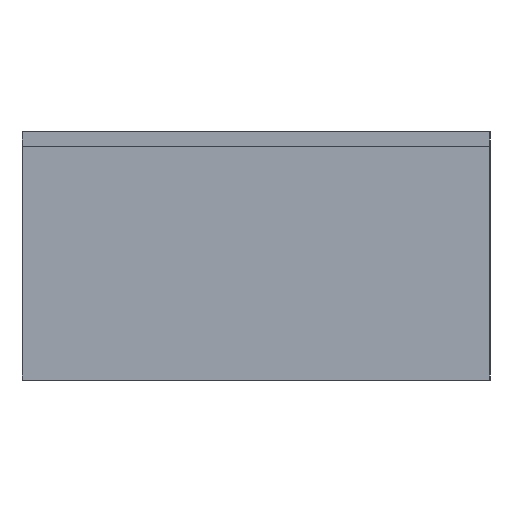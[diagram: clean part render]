
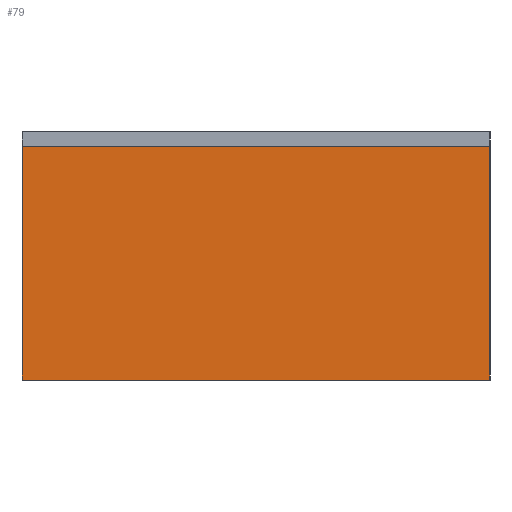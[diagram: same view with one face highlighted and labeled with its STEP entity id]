
A CAD part, left-side view. The second image highlights one B-rep face of the part: STEP entity #79.
In plain terms, the highlighted planar face has unit normal (-1, 0, 0).
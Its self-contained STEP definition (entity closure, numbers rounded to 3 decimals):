
#79 = ADVANCED_FACE('',(#80),#94,.F.);
#80 = FACE_BOUND('',#81,.F.);
#81 = EDGE_LOOP('',(#82,#117,#145,#173));
#82 = ORIENTED_EDGE('',*,*,#83,.F.);
#83 = EDGE_CURVE('',#84,#86,#88,.T.);
#84 = VERTEX_POINT('',#85);
#85 = CARTESIAN_POINT('',(0.,0.,0.));
#86 = VERTEX_POINT('',#87);
#87 = CARTESIAN_POINT('',(0.,0.,50.));
#88 = SURFACE_CURVE('',#89,(#93,#105),.PCURVE_S1.);
#89 = LINE('',#90,#91);
#90 = CARTESIAN_POINT('',(0.,0.,0.));
#91 = VECTOR('',#92,1.);
#92 = DIRECTION('',(0.,0.,1.));
#93 = PCURVE('',#94,#99);
#94 = PLANE('',#95);
#95 = AXIS2_PLACEMENT_3D('',#96,#97,#98);
#96 = CARTESIAN_POINT('',(0.,0.,0.));
#97 = DIRECTION('',(1.,0.,0.));
#98 = DIRECTION('',(0.,0.,1.));
#99 = DEFINITIONAL_REPRESENTATION('',(#100),#104);
#100 = LINE('',#101,#102);
#101 = CARTESIAN_POINT('',(0.,0.));
#102 = VECTOR('',#103,1.);
#103 = DIRECTION('',(1.,0.));
#104 = ( GEOMETRIC_REPRESENTATION_CONTEXT(2) 
PARAMETRIC_REPRESENTATION_CONTEXT() REPRESENTATION_CONTEXT('2D SPACE',''
  ) );
#105 = PCURVE('',#106,#111);
#106 = PLANE('',#107);
#107 = AXIS2_PLACEMENT_3D('',#108,#109,#110);
#108 = CARTESIAN_POINT('',(0.,0.,0.));
#109 = DIRECTION('',(0.,1.,0.));
#110 = DIRECTION('',(0.,0.,1.));
#111 = DEFINITIONAL_REPRESENTATION('',(#112),#116);
#112 = LINE('',#113,#114);
#113 = CARTESIAN_POINT('',(0.,0.));
#114 = VECTOR('',#115,1.);
#115 = DIRECTION('',(1.,0.));
#116 = ( GEOMETRIC_REPRESENTATION_CONTEXT(2) 
PARAMETRIC_REPRESENTATION_CONTEXT() REPRESENTATION_CONTEXT('2D SPACE',''
  ) );
#117 = ORIENTED_EDGE('',*,*,#118,.T.);
#118 = EDGE_CURVE('',#84,#119,#121,.T.);
#119 = VERTEX_POINT('',#120);
#120 = CARTESIAN_POINT('',(0.,100.,0.));
#121 = SURFACE_CURVE('',#122,(#126,#133),.PCURVE_S1.);
#122 = LINE('',#123,#124);
#123 = CARTESIAN_POINT('',(0.,0.,0.));
#124 = VECTOR('',#125,1.);
#125 = DIRECTION('',(0.,1.,0.));
#126 = PCURVE('',#94,#127);
#127 = DEFINITIONAL_REPRESENTATION('',(#128),#132);
#128 = LINE('',#129,#130);
#129 = CARTESIAN_POINT('',(0.,0.));
#130 = VECTOR('',#131,1.);
#131 = DIRECTION('',(0.,-1.));
#132 = ( GEOMETRIC_REPRESENTATION_CONTEXT(2) 
PARAMETRIC_REPRESENTATION_CONTEXT() REPRESENTATION_CONTEXT('2D SPACE',''
  ) );
#133 = PCURVE('',#134,#139);
#134 = PLANE('',#135);
#135 = AXIS2_PLACEMENT_3D('',#136,#137,#138);
#136 = CARTESIAN_POINT('',(0.,0.,0.));
#137 = DIRECTION('',(0.,0.,1.));
#138 = DIRECTION('',(1.,0.,0.));
#139 = DEFINITIONAL_REPRESENTATION('',(#140),#144);
#140 = LINE('',#141,#142);
#141 = CARTESIAN_POINT('',(0.,0.));
#142 = VECTOR('',#143,1.);
#143 = DIRECTION('',(0.,1.));
#144 = ( GEOMETRIC_REPRESENTATION_CONTEXT(2) 
PARAMETRIC_REPRESENTATION_CONTEXT() REPRESENTATION_CONTEXT('2D SPACE',''
  ) );
#145 = ORIENTED_EDGE('',*,*,#146,.T.);
#146 = EDGE_CURVE('',#119,#147,#149,.T.);
#147 = VERTEX_POINT('',#148);
#148 = CARTESIAN_POINT('',(0.,100.,50.));
#149 = SURFACE_CURVE('',#150,(#154,#161),.PCURVE_S1.);
#150 = LINE('',#151,#152);
#151 = CARTESIAN_POINT('',(0.,100.,0.));
#152 = VECTOR('',#153,1.);
#153 = DIRECTION('',(0.,0.,1.));
#154 = PCURVE('',#94,#155);
#155 = DEFINITIONAL_REPRESENTATION('',(#156),#160);
#156 = LINE('',#157,#158);
#157 = CARTESIAN_POINT('',(0.,-100.));
#158 = VECTOR('',#159,1.);
#159 = DIRECTION('',(1.,0.));
#160 = ( GEOMETRIC_REPRESENTATION_CONTEXT(2) 
PARAMETRIC_REPRESENTATION_CONTEXT() REPRESENTATION_CONTEXT('2D SPACE',''
  ) );
#161 = PCURVE('',#162,#167);
#162 = PLANE('',#163);
#163 = AXIS2_PLACEMENT_3D('',#164,#165,#166);
#164 = CARTESIAN_POINT('',(0.,100.,0.));
#165 = DIRECTION('',(0.,1.,0.));
#166 = DIRECTION('',(0.,0.,1.));
#167 = DEFINITIONAL_REPRESENTATION('',(#168),#172);
#168 = LINE('',#169,#170);
#169 = CARTESIAN_POINT('',(0.,0.));
#170 = VECTOR('',#171,1.);
#171 = DIRECTION('',(1.,0.));
#172 = ( GEOMETRIC_REPRESENTATION_CONTEXT(2) 
PARAMETRIC_REPRESENTATION_CONTEXT() REPRESENTATION_CONTEXT('2D SPACE',''
  ) );
#173 = ORIENTED_EDGE('',*,*,#174,.F.);
#174 = EDGE_CURVE('',#86,#147,#175,.T.);
#175 = SURFACE_CURVE('',#176,(#180,#187),.PCURVE_S1.);
#176 = LINE('',#177,#178);
#177 = CARTESIAN_POINT('',(0.,0.,50.));
#178 = VECTOR('',#179,1.);
#179 = DIRECTION('',(0.,1.,0.));
#180 = PCURVE('',#94,#181);
#181 = DEFINITIONAL_REPRESENTATION('',(#182),#186);
#182 = LINE('',#183,#184);
#183 = CARTESIAN_POINT('',(50.,0.));
#184 = VECTOR('',#185,1.);
#185 = DIRECTION('',(0.,-1.));
#186 = ( GEOMETRIC_REPRESENTATION_CONTEXT(2) 
PARAMETRIC_REPRESENTATION_CONTEXT() REPRESENTATION_CONTEXT('2D SPACE',''
  ) );
#187 = PCURVE('',#188,#193);
#188 = PLANE('',#189);
#189 = AXIS2_PLACEMENT_3D('',#190,#191,#192);
#190 = CARTESIAN_POINT('',(0.,0.,50.));
#191 = DIRECTION('',(0.,0.,1.));
#192 = DIRECTION('',(1.,0.,0.));
#193 = DEFINITIONAL_REPRESENTATION('',(#194),#198);
#194 = LINE('',#195,#196);
#195 = CARTESIAN_POINT('',(0.,0.));
#196 = VECTOR('',#197,1.);
#197 = DIRECTION('',(0.,1.));
#198 = ( GEOMETRIC_REPRESENTATION_CONTEXT(2) 
PARAMETRIC_REPRESENTATION_CONTEXT() REPRESENTATION_CONTEXT('2D SPACE',''
  ) );
